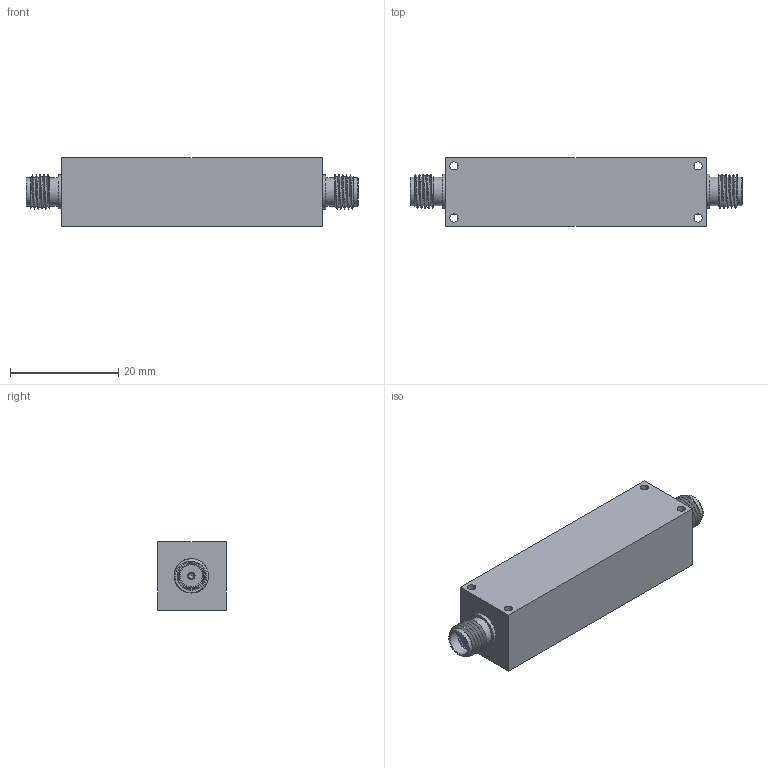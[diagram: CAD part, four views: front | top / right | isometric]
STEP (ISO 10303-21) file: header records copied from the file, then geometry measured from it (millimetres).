
FILE_DESCRIPTION (( 'STEP AP214' ), '1' );
FILE_NAME ('STEP CONFIGURATION.STEP', '2026-08-25T13:08:31', ( '' ), ( '' ), 'SwSTEP 2.0', 'SolidWorks 2025', '' );
FILE_SCHEMA (( 'AUTOMOTIVE_DESIGN' ));
Length unit declared in the file: inch
Products named in the file (1): STEP CONFIGURATION
Bounding box: 61.47 x 12.7 x 12.75 mm (x, y, z)
Volume: 8137.5 mm3; surface area: 4732.9 mm2
Topology: 4 solids, 6 shells, 220 faces, 1171 edges, 1097 vertices
Faces by surface type: plane 160, cylinder 30, torus 22, bspline 4, cone 4
Full cylindrical faces by diameter (mm): 1.016 x2, 1.27 x4, 1.524 x4, 4.191 x2, 4.597 x2, 5.283 x6, 5.588 x2, 6.35 x2
Entity records: 20010 total; most frequent: CARTESIAN_POINT 7763, ORIENTED_EDGE 2230, DIRECTION 1456, EDGE_CURVE 1115, VERTEX_POINT 1091, LINE 636, VECTOR 636, EDGE_LOOP 412
